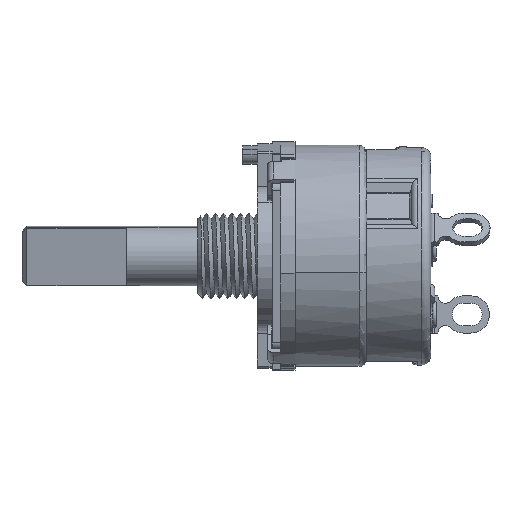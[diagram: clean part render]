
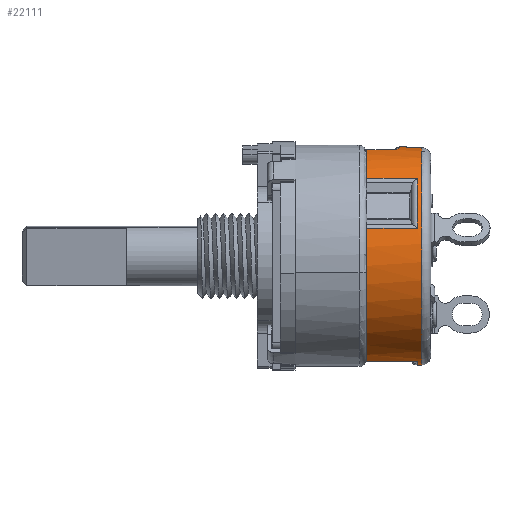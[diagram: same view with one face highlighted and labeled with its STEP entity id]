
A CAD part, left-side view. The second image highlights one B-rep face of the part: STEP entity #22111.
In plain terms, the highlighted cylindrical face has radius 11.608 mm (diameter 23.216 mm), a partial arc.
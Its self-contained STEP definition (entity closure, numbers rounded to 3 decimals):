
#226 = B_SPLINE_CURVE_WITH_KNOTS ( 'NONE', 3,
 ( #4962, #4627, #2501, #14555, #24487, #12415, #14879, #19604, #29490, #17168, #14729, #9209 ),
 .UNSPECIFIED., .F., .F.,
 ( 4, 2, 2, 2, 2, 4 ),
 ( 0., 0., 0.001, 0.001, 0.002, 0.002 ),
 .UNSPECIFIED. ) ;
#275 = DIRECTION ( 'NONE',  ( 0., 1., 0. ) ) ;
#423 = CARTESIAN_POINT ( 'NONE',  ( 0., 1.448, 0. ) ) ;
#937 = ORIENTED_EDGE ( 'NONE', *, *, #27959, .F. ) ;
#1279 = CARTESIAN_POINT ( 'NONE',  ( -8.164, 0.457, 8.251 ) ) ;
#1621 = EDGE_CURVE ( 'NONE', #19728, #17211, #8845, .T. ) ;
#1884 = DIRECTION ( 'NONE',  ( 0., -1., 0. ) ) ;
#2191 = CIRCLE ( 'NONE', #8962, 11.608 ) ;
#2370 = VERTEX_POINT ( 'NONE', #6603 ) ;
#2501 = CARTESIAN_POINT ( 'NONE',  ( -1.527, 3.364, 11.508 ) ) ;
#2627 = CIRCLE ( 'NONE', #19281, 11.608 ) ;
#2832 = DIRECTION ( 'NONE',  ( 0., -1., 0. ) ) ;
#3032 = ORIENTED_EDGE ( 'NONE', *, *, #19411, .F. ) ;
#3723 = EDGE_CURVE ( 'NONE', #12032, #2370, #14581, .T. ) ;
#3771 = VERTEX_POINT ( 'NONE', #13933 ) ;
#3784 = CARTESIAN_POINT ( 'NONE',  ( 0., 1.448, -11.608 ) ) ;
#4580 = ORIENTED_EDGE ( 'NONE', *, *, #19419, .T. ) ;
#4627 = CARTESIAN_POINT ( 'NONE',  ( -1.369, 3.353, 11.528 ) ) ;
#4900 = LINE ( 'NONE', #19388, #18777 ) ;
#4962 = CARTESIAN_POINT ( 'NONE',  ( -1.209, 3.353, 11.545 ) ) ;
#4996 = ORIENTED_EDGE ( 'NONE', *, *, #26066, .T. ) ;
#5089 = CARTESIAN_POINT ( 'NONE',  ( -3.064, 6.807, -11.196 ) ) ;
#5691 = CARTESIAN_POINT ( 'NONE',  ( 0., 3.353, 0. ) ) ;
#5818 = DIRECTION ( 'NONE',  ( 0., 0., 1. ) ) ;
#5841 = DIRECTION ( 'NONE',  ( 0., 0., 1. ) ) ;
#5995 = DIRECTION ( 'NONE',  ( 0., 1., 0. ) ) ;
#6429 = CARTESIAN_POINT ( 'NONE',  ( 0., 3.353, 11.608 ) ) ;
#6488 = DIRECTION ( 'NONE',  ( 0., 0., 1. ) ) ;
#6513 = CARTESIAN_POINT ( 'NONE',  ( -1.321, 0.965, 11.532 ) ) ;
#6603 = CARTESIAN_POINT ( 'NONE',  ( -2.717, 6.807, 11.285 ) ) ;
#6637 = ORIENTED_EDGE ( 'NONE', *, *, #25322, .T. ) ;
#7040 = ORIENTED_EDGE ( 'NONE', *, *, #16391, .T. ) ;
#7164 = CARTESIAN_POINT ( 'NONE',  ( 0., 0.965, 0. ) ) ;
#7295 = CIRCLE ( 'NONE', #18773, 11.608 ) ;
#7323 = VERTEX_POINT ( 'NONE', #5089 ) ;
#7552 = CARTESIAN_POINT ( 'NONE',  ( -1.321, 2.184, 11.532 ) ) ;
#7641 = DIRECTION ( 'NONE',  ( 0., 0., 1. ) ) ;
#7885 = ORIENTED_EDGE ( 'NONE', *, *, #13313, .T. ) ;
#7975 = DIRECTION ( 'NONE',  ( 0., -1., 0. ) ) ;
#8594 = VECTOR ( 'NONE', #18779, 1000. ) ;
#8689 = AXIS2_PLACEMENT_3D ( 'NONE', #12746, #2832, #13243 ) ;
#8845 = LINE ( 'NONE', #21668, #8594 ) ;
#8962 = AXIS2_PLACEMENT_3D ( 'NONE', #7164, #22450, #27190 ) ;
#9209 = CARTESIAN_POINT ( 'NONE',  ( -2.717, 4.216, 11.285 ) ) ;
#9245 = CYLINDRICAL_SURFACE ( 'NONE', #11000, 11.608 ) ;
#9532 = VECTOR ( 'NONE', #21727, 1000. ) ;
#9557 = CARTESIAN_POINT ( 'NONE',  ( -2.717, 0.457, 11.285 ) ) ;
#9799 = ORIENTED_EDGE ( 'NONE', *, *, #19393, .F. ) ;
#10252 = VECTOR ( 'NONE', #275, 1000. ) ;
#10291 = VERTEX_POINT ( 'NONE', #3784 ) ;
#10702 = DIRECTION ( 'NONE',  ( 0., -1., 0. ) ) ;
#10867 = DIRECTION ( 'NONE',  ( 0., -1., 0. ) ) ;
#10933 = VECTOR ( 'NONE', #1884, 1000. ) ;
#10956 = CARTESIAN_POINT ( 'NONE',  ( -3.064, 1.448, -11.196 ) ) ;
#11000 = AXIS2_PLACEMENT_3D ( 'NONE', #11198, #13951, #18692 ) ;
#11040 = CARTESIAN_POINT ( 'NONE',  ( 0., 6.807, 0. ) ) ;
#11198 = CARTESIAN_POINT ( 'NONE',  ( 0., 0.457, 0. ) ) ;
#12032 = VERTEX_POINT ( 'NONE', #13984 ) ;
#12415 = CARTESIAN_POINT ( 'NONE',  ( -2.283, 3.583, 11.382 ) ) ;
#12582 = VECTOR ( 'NONE', #13033, 1000. ) ;
#12746 = CARTESIAN_POINT ( 'NONE',  ( 0., 1.448, 0. ) ) ;
#13033 = DIRECTION ( 'NONE',  ( 0., -1., 0. ) ) ;
#13046 = CARTESIAN_POINT ( 'NONE',  ( -1.321, 2.565, 11.532 ) ) ;
#13243 = DIRECTION ( 'NONE',  ( 0., 0., 1. ) ) ;
#13313 = EDGE_CURVE ( 'NONE', #16443, #21325, #2191, .T. ) ;
#13334 = CIRCLE ( 'NONE', #8689, 11.608 ) ;
#13453 = EDGE_CURVE ( 'NONE', #19728, #13931, #23529, .T. ) ;
#13456 = LINE ( 'NONE', #1279, #23415 ) ;
#13931 = VERTEX_POINT ( 'NONE', #30974 ) ;
#13933 = CARTESIAN_POINT ( 'NONE',  ( -11.228, 1.448, 2.945 ) ) ;
#13951 = DIRECTION ( 'NONE',  ( 0., -1., 0. ) ) ;
#13984 = CARTESIAN_POINT ( 'NONE',  ( -2.717, 4.216, 11.285 ) ) ;
#14555 = CARTESIAN_POINT ( 'NONE',  ( -1.837, 3.417, 11.463 ) ) ;
#14581 = LINE ( 'NONE', #9557, #9532 ) ;
#14729 = CARTESIAN_POINT ( 'NONE',  ( -2.717, 4.134, 11.285 ) ) ;
#14879 = CARTESIAN_POINT ( 'NONE',  ( -2.422, 3.668, 11.353 ) ) ;
#15518 = CARTESIAN_POINT ( 'NONE',  ( -11.228, 6.807, 2.945 ) ) ;
#16391 = EDGE_CURVE ( 'NONE', #13931, #12032, #226, .T. ) ;
#16408 = VERTEX_POINT ( 'NONE', #15518 ) ;
#16443 = VERTEX_POINT ( 'NONE', #27716 ) ;
#17168 = CARTESIAN_POINT ( 'NONE',  ( -2.698, 4.054, 11.29 ) ) ;
#17211 = VERTEX_POINT ( 'NONE', #30353 ) ;
#17266 = CARTESIAN_POINT ( 'NONE',  ( -8.164, 6.807, 8.251 ) ) ;
#17323 = AXIS2_PLACEMENT_3D ( 'NONE', #18216, #28118, #5841 ) ;
#17332 = VERTEX_POINT ( 'NONE', #23838 ) ;
#17493 = LINE ( 'NONE', #24314, #10933 ) ;
#17550 = EDGE_CURVE ( 'NONE', #7323, #21885, #17493, .T. ) ;
#18216 = CARTESIAN_POINT ( 'NONE',  ( 0., 2.565, 0. ) ) ;
#18231 = EDGE_CURVE ( 'NONE', #10291, #16443, #4900, .T. ) ;
#18337 = VERTEX_POINT ( 'NONE', #17266 ) ;
#18522 = DIRECTION ( 'NONE',  ( 0., 1., 0. ) ) ;
#18525 = EDGE_LOOP ( 'NONE', ( #26007, #27971, #7040, #18650, #3032, #4580, #6637, #31762, #9799, #28190, #4996, #28443, #7885, #937, #29263 ) ) ;
#18650 = ORIENTED_EDGE ( 'NONE', *, *, #3723, .T. ) ;
#18692 = DIRECTION ( 'NONE',  ( 0., 0., -1. ) ) ;
#18773 = AXIS2_PLACEMENT_3D ( 'NONE', #27925, #18522, #6488 ) ;
#18777 = VECTOR ( 'NONE', #21647, 1000. ) ;
#18779 = DIRECTION ( 'NONE',  ( 0., -1., 0. ) ) ;
#19281 = AXIS2_PLACEMENT_3D ( 'NONE', #11040, #5995, #31013 ) ;
#19388 = CARTESIAN_POINT ( 'NONE',  ( 0., 0.457, -11.608 ) ) ;
#19393 = EDGE_CURVE ( 'NONE', #7323, #16408, #7295, .T. ) ;
#19411 = EDGE_CURVE ( 'NONE', #18337, #2370, #2627, .T. ) ;
#19419 = EDGE_CURVE ( 'NONE', #18337, #17332, #13456, .T. ) ;
#19604 = CARTESIAN_POINT ( 'NONE',  ( -2.584, 3.841, 11.317 ) ) ;
#19728 = VERTEX_POINT ( 'NONE', #6429 ) ;
#19831 = CARTESIAN_POINT ( 'NONE',  ( -11.228, 0.457, 2.945 ) ) ;
#20082 = CIRCLE ( 'NONE', #30982, 11.608 ) ;
#20720 = VERTEX_POINT ( 'NONE', #13046 ) ;
#21325 = VERTEX_POINT ( 'NONE', #6513 ) ;
#21647 = DIRECTION ( 'NONE',  ( 0., -1., 0. ) ) ;
#21668 = CARTESIAN_POINT ( 'NONE',  ( 0., 0.457, 11.608 ) ) ;
#21727 = DIRECTION ( 'NONE',  ( 0., 1., 0. ) ) ;
#21885 = VERTEX_POINT ( 'NONE', #10956 ) ;
#22111 = ADVANCED_FACE ( 'NONE', ( #26324 ), #9245, .T. ) ;
#22450 = DIRECTION ( 'NONE',  ( 0., 1., 0. ) ) ;
#22980 = AXIS2_PLACEMENT_3D ( 'NONE', #5691, #7975, #7641 ) ;
#23415 = VECTOR ( 'NONE', #10867, 1000. ) ;
#23529 = CIRCLE ( 'NONE', #22980, 11.608 ) ;
#23838 = CARTESIAN_POINT ( 'NONE',  ( -8.164, 1.448, 8.251 ) ) ;
#24314 = CARTESIAN_POINT ( 'NONE',  ( -3.064, 0.457, -11.196 ) ) ;
#24487 = CARTESIAN_POINT ( 'NONE',  ( -1.99, 3.457, 11.437 ) ) ;
#25322 = EDGE_CURVE ( 'NONE', #17332, #3771, #13334, .T. ) ;
#25724 = LINE ( 'NONE', #7552, #12582 ) ;
#25833 = EDGE_CURVE ( 'NONE', #3771, #16408, #31245, .T. ) ;
#26007 = ORIENTED_EDGE ( 'NONE', *, *, #1621, .F. ) ;
#26066 = EDGE_CURVE ( 'NONE', #21885, #10291, #20082, .T. ) ;
#26324 = FACE_OUTER_BOUND ( 'NONE', #18525, .T. ) ;
#27148 = EDGE_CURVE ( 'NONE', #20720, #17211, #31338, .T. ) ;
#27190 = DIRECTION ( 'NONE',  ( 0., 0., 1. ) ) ;
#27716 = CARTESIAN_POINT ( 'NONE',  ( 0., 0.965, -11.608 ) ) ;
#27925 = CARTESIAN_POINT ( 'NONE',  ( 0., 6.807, 0. ) ) ;
#27959 = EDGE_CURVE ( 'NONE', #20720, #21325, #25724, .T. ) ;
#27971 = ORIENTED_EDGE ( 'NONE', *, *, #13453, .T. ) ;
#28118 = DIRECTION ( 'NONE',  ( 0., 1., 0. ) ) ;
#28190 = ORIENTED_EDGE ( 'NONE', *, *, #17550, .T. ) ;
#28443 = ORIENTED_EDGE ( 'NONE', *, *, #18231, .T. ) ;
#29263 = ORIENTED_EDGE ( 'NONE', *, *, #27148, .T. ) ;
#29490 = CARTESIAN_POINT ( 'NONE',  ( -2.632, 3.907, 11.306 ) ) ;
#30353 = CARTESIAN_POINT ( 'NONE',  ( 0., 2.565, 11.608 ) ) ;
#30974 = CARTESIAN_POINT ( 'NONE',  ( -1.209, 3.353, 11.545 ) ) ;
#30982 = AXIS2_PLACEMENT_3D ( 'NONE', #423, #10702, #5818 ) ;
#31013 = DIRECTION ( 'NONE',  ( 0., 0., 1. ) ) ;
#31245 = LINE ( 'NONE', #19831, #10252 ) ;
#31338 = CIRCLE ( 'NONE', #17323, 11.608 ) ;
#31762 = ORIENTED_EDGE ( 'NONE', *, *, #25833, .T. ) ;
